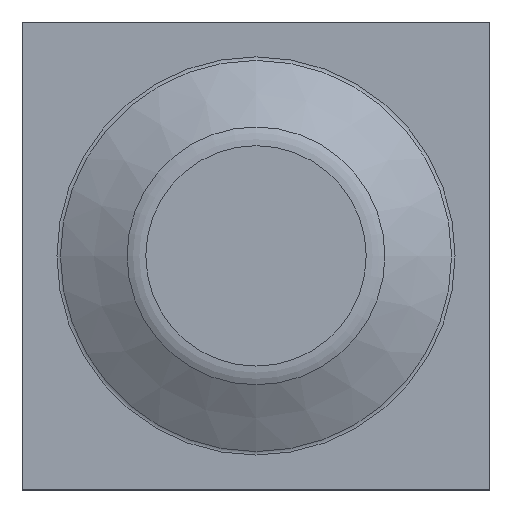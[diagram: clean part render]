
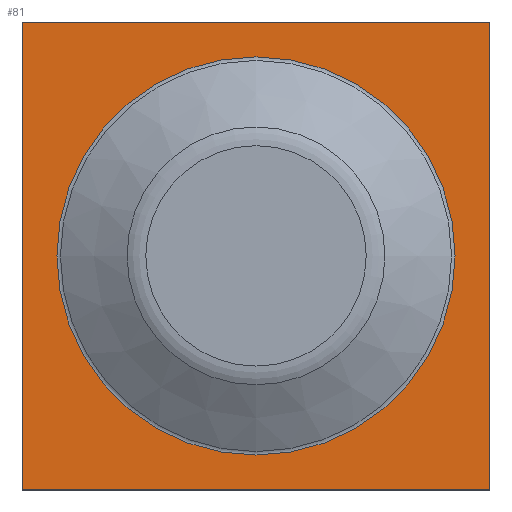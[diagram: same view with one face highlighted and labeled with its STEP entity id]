
A CAD part, top view. The second image highlights one B-rep face of the part: STEP entity #81.
In plain terms, the highlighted planar face has unit normal (0, 0, 1).
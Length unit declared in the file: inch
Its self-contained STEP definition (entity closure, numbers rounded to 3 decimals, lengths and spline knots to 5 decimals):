
#81=ADVANCED_FACE('',(#107,#108),#109,.F.);
#107=FACE_OUTER_BOUND('',#143,.T.);
#108=FACE_BOUND('',#144,.T.);
#109=PLANE('',#145);
#143=EDGE_LOOP('',(#194,#195,#196,#197));
#144=EDGE_LOOP('',(#198));
#145=AXIS2_PLACEMENT_3D('',#199,#200,#201);
#194=ORIENTED_EDGE('',*,*,#254,.T.);
#195=ORIENTED_EDGE('',*,*,#255,.T.);
#196=ORIENTED_EDGE('',*,*,#256,.T.);
#197=ORIENTED_EDGE('',*,*,#257,.T.);
#198=ORIENTED_EDGE('',*,*,#253,.F.);
#199=CARTESIAN_POINT('',(0.0,12.677,-12.597));
#200=DIRECTION('',(0.0,0.,-1.0));
#201=DIRECTION('',(0.0,-1.0,0.));
#253=EDGE_CURVE('',#282,#282,#283,.T.);
#254=EDGE_CURVE('',#284,#285,#286,.T.);
#255=EDGE_CURVE('',#285,#287,#288,.T.);
#256=EDGE_CURVE('',#287,#289,#290,.T.);
#257=EDGE_CURVE('',#289,#284,#291,.T.);
#282=VERTEX_POINT('',#322);
#283=CIRCLE('',#323,0.42546);
#284=VERTEX_POINT('',#324);
#285=VERTEX_POINT('',#325);
#286=LINE('',#326,#327);
#287=VERTEX_POINT('',#328);
#288=LINE('',#329,#330);
#289=VERTEX_POINT('',#331);
#290=LINE('',#332,#333);
#291=LINE('',#334,#335);
#322=CARTESIAN_POINT('',(3.44546,0.5,-12.597));
#323=AXIS2_PLACEMENT_3D('',#367,#368,#369);
#324=CARTESIAN_POINT('',(2.52,0.0,-12.597));
#325=CARTESIAN_POINT('',(3.52,0.0,-12.597));
#326=CARTESIAN_POINT('',(0.0,0.0,-12.597));
#327=VECTOR('',#370,1.0);
#328=CARTESIAN_POINT('',(3.52,1.0,-12.597));
#329=CARTESIAN_POINT('',(3.52,3217.79734,-12.597));
#330=VECTOR('',#371,1.0);
#331=CARTESIAN_POINT('',(2.52,1.0,-12.597));
#332=CARTESIAN_POINT('',(0.0,1.0,-12.597));
#333=VECTOR('',#372,1.0);
#334=CARTESIAN_POINT('',(2.52,6614.44542,-12.597));
#335=VECTOR('',#373,1.0);
#367=CARTESIAN_POINT('',(3.02,0.5,-12.597));
#368=DIRECTION('',(0.0,0.,1.0));
#369=DIRECTION('',(-1.0,0.0,0.0));
#370=DIRECTION('',(1.0,0.0,0.0));
#371=DIRECTION('',(0.0,1.0,0.));
#372=DIRECTION('',(-1.0,0.0,0.0));
#373=DIRECTION('',(0.0,-1.0,0.));
